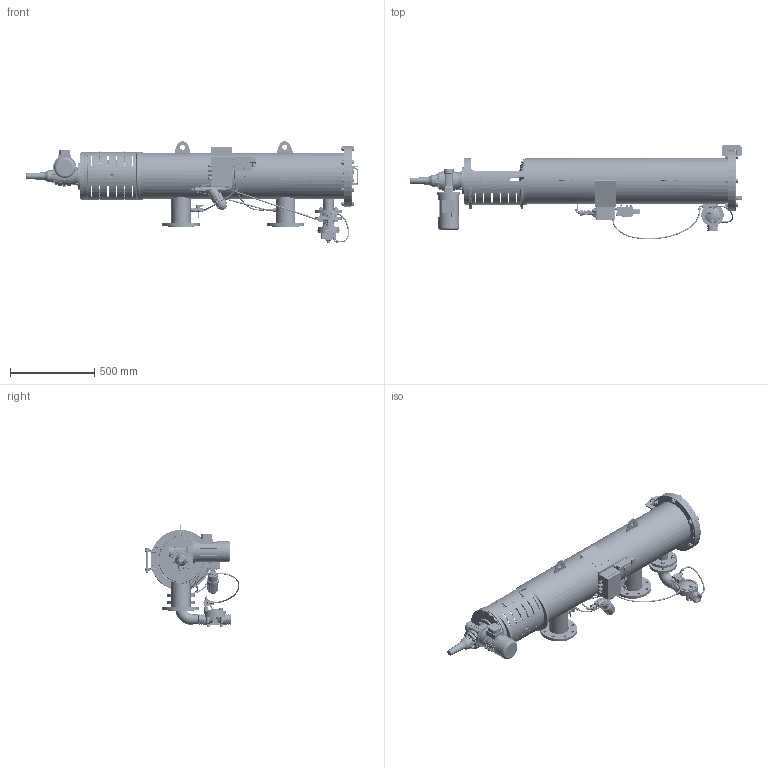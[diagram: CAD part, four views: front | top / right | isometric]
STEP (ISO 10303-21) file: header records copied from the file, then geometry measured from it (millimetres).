
FILE_DESCRIPTION (( 'STEP AP214' ), '1' );
FILE_NAME ('041043-000034.STEP', '2023-02-07T11:51:12', ( '' ), ( '' ), 'SwSTEP 2.0', 'SolidWorks 2019', '' );
FILE_SCHEMA (( 'AUTOMOTIVE_DESIGN' ));
Length unit declared in the file: millimetre
Products named in the file (1): 041043-000034
Bounding box: 1967.82 x 561.89 x 601.35 mm (x, y, z)
Volume: 21588351 mm3; surface area: 5755985.1 mm2
Topology: 271 solids, 276 shells, 14940 faces, 36326 edges, 22247 vertices
Faces by surface type: plane 7864, cylinder 2451, bspline 2225, cone 1278, torus 897, sphere 225
Full cylindrical faces by diameter (mm): 1.2 x10, 2 x2, 2.381 x2, 2.4 x4, 3 x6, 3.141 x1, 3.5 x5, 3.9 x4, 4 x21, 4.134 x1, 4.166 x2, 4.2 x1, 4.3 x1, 4.4 x2, 4.7 x2, 4.75 x10, 4.763 x2, 4.773 x5, 4.917 x2, 4.971 x1, 5 x18, 5.7 x9, 6 x44, 6.2 x3, 6.5 x14, 6.6 x3, 6.858 x2, 7 x10, 7.137 x26, 7.187 x1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
Entity records: 847551 total; most frequent: CARTESIAN_POINT 324474, ORIENTED_EDGE 74114, DIRECTION 63787, EDGE_CURVE 37057, AXIS2_PLACEMENT_3D 23849, VERTEX_POINT 23678, EDGE_LOOP 19249, FACE_OUTER_BOUND 17313
